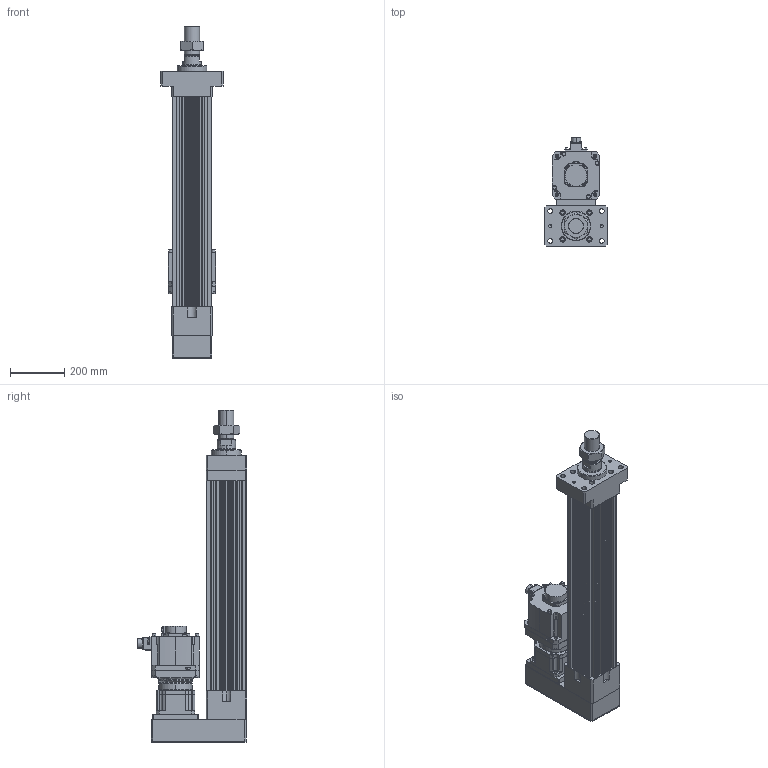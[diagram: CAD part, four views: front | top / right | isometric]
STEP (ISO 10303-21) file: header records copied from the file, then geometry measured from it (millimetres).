
FILE_DESCRIPTION (( 'STEP AP203' ), '1' );
FILE_NAME ('HES150NS(HS)-P500-W035G00-M-FMA.STEP', '2023-01-31T10:36:25', ( 'tms' ), ( '' ), 'SwSTEP 2.0', 'SolidWorks 2013', '' );
FILE_SCHEMA (( 'CONFIG_CONTROL_DESIGN' ));
Length unit declared in the file: millimetre
Products named in the file (9): HES150-P500-G142-FMA; HES150 ROD M ST500; AB142-003[HG-SR352]; M56X2.0P; P1301500001; HG-SR352; P0403500801; HES150NS(HS)-P500-W035G00-M-FMA; AB1421
Assembly tree (8 placements, depth 3):
  HES150NS(HS)-P500-W035G00-M-FMA
    HES150-P500-G142-FMA
    HES150 ROD M ST500
    M56X2.0P
    AB142-003[HG-SR352]
      AB1421
      P1301500001
      P0403500801
    HG-SR352
Bounding box: 230 x 403.85 x 1226 mm (x, y, z)
Volume: 20642401.3 mm3; surface area: 2041274.2 mm2
Topology: 4 solids, 18 shells, 1426 faces, 3722 edges, 2416 vertices
Faces by surface type: cylinder 669, plane 531, cone 144, bspline 76, torus 6
Entity records: 52806 total; most frequent: CARTESIAN_POINT 16363, DIRECTION 7620, ORIENTED_EDGE 7346, EDGE_CURVE 3695, AXIS2_PLACEMENT_3D 2898, VERTEX_POINT 2416, VECTOR 1824, LINE 1824
